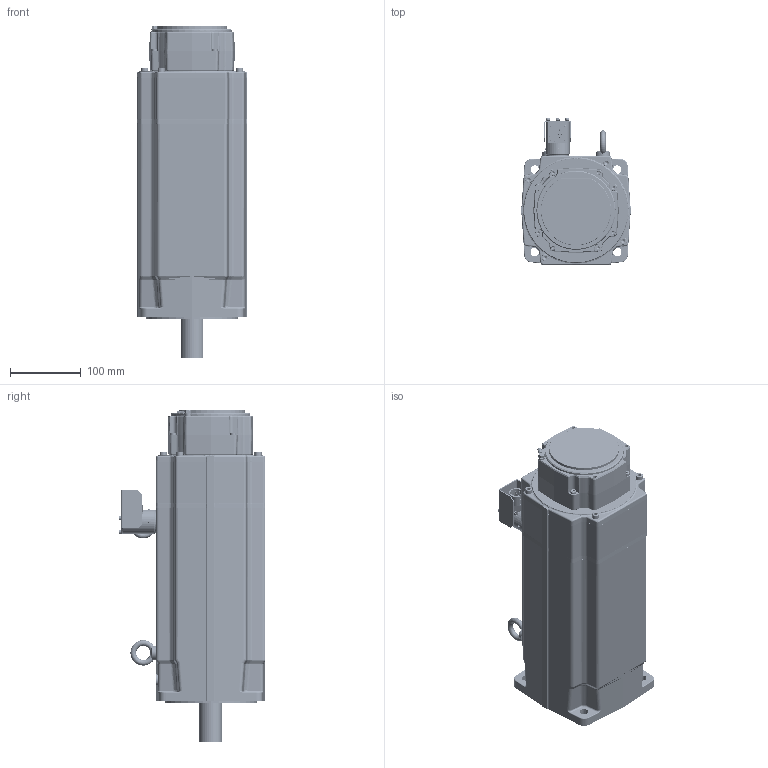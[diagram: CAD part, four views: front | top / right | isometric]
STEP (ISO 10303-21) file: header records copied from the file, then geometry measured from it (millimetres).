
FILE_DESCRIPTION((''),'2;1');
FILE_NAME('EY860EYR7310_ASM','2017-09-29T',('pf73167'),(''),'PRO/ENGINEER BY PARAMETRIC TECHNOLOGY CORPORATION, 2009400','PRO/ENGINEER BY PARAMETRIC TECHNOLOGY CORPORATION, 2009400','');
FILE_SCHEMA(('CONFIG_CONTROL_DESIGN'));
Length unit declared in the file: millimetre
Products named in the file (55): 344458P0008; 5340P0036; 5116P1319; 1150P0512; 301026P0003; 344463P0006; 344232P0004; 344212P0003; 344232P0004_ASM; 344461R0006_ASM; 5116P1327; 1640P0001; 344440P0003; 344231P0004; BOB_344465R6000; 344465R6000_ASM; 344466R6000_ASM; SURMOULAGE_344467R6001; 344467R6001_ASM; 283154_08_P1F101_AF0; 283154_08_P1F501_AF0; 283154P0040_ASM; 1150P0608; 1711P0002; 5320P0029; 1613P0081; 1613P0082; 1314P0408; 300025P0004; 344455P0001; 344459P0026; 5340P0071; 1150P0625; 344191P0022; 1143P0515; 1190P0001; 6942P0012; 1642P0105; 6620P0014; 1145P0508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
Assembly tree (90 placements, depth 5):
  EY860EYR7310_ASM
    344458P0008
    5340P0036  x3
    5116P1319
    1150P0512  x3
    301026P0003
    344461R0006_ASM
      344463P0006
      344232P0004_ASM
        344232P0004
        344212P0003  x2
    5116P1327
    1640P0001  x3
    344467R6001_ASM
      344440P0003
      344466R6000_ASM
        344465R6000_ASM
          344231P0004
          BOB_344465R6000
      SURMOULAGE_344467R6001
    283154P0040_ASM
      283154_08_P1F101_AF0
      283154_08_P1F501_AF0
    1150P0608  x4
    1711P0002
    5320P0029
    1613P0081  x2
    1613P0082  x2
    1314P0408
    300025P0004
    344455P0001
    344459P0026
    5340P0071
    1150P0625  x4
    344191P0022
    1143P0515  x4
    1190P0001  x2
    6942P0012
    1642P0105
    6620P0014
    1145P0508
    345359R1010_800_ASM
      345359P0002
      5340P0124
      5340P0125
      1150P0204  x8
      345359P0001
      1170P0042  x4
      220132P1010_ASM
        220132P1010_0001
        220132P1010_0002
        220132P0111  x4
        220132P0120  x3
      345359P0003
      1150P0305  x3
Bounding box: 157 x 207.7 x 469.9 mm (x, y, z)
Volume: 5765930.8 mm3; surface area: 1582144.8 mm2
Topology: 88 solids, 117 shells, 5435 faces, 13108 edges, 8029 vertices
Faces by surface type: cylinder 1887, plane 1689, bspline 727, cone 696, torus 360, sphere 66, extrusion 10
Entity records: 160715 total; most frequent: CARTESIAN_POINT 55848, ORIENTED_EDGE 21922, DIRECTION 21516, EDGE_CURVE 10961, AXIS2_PLACEMENT_3D 8338, VERTEX_POINT 6844, EDGE_LOOP 5005, VECTOR 4840
